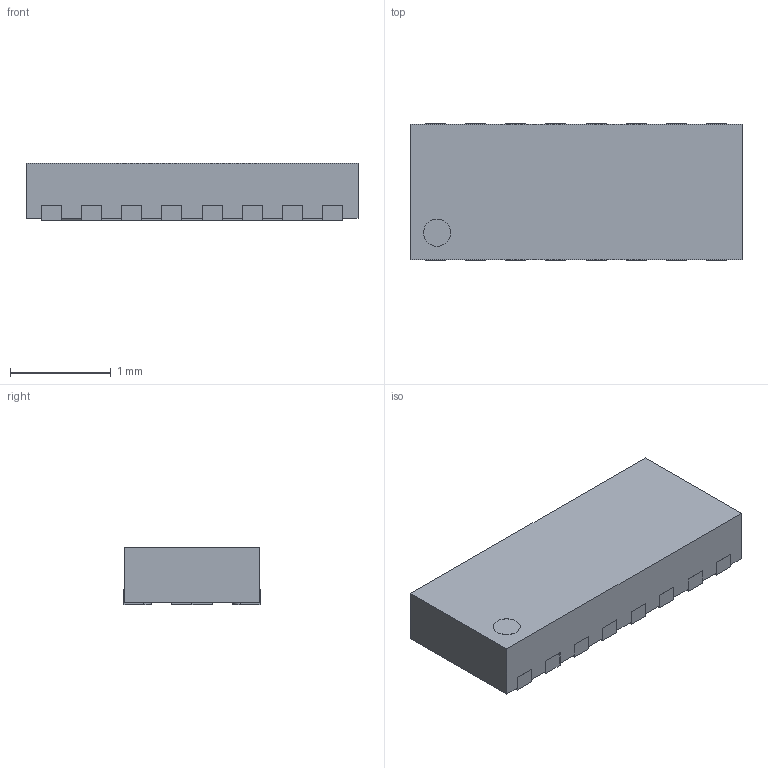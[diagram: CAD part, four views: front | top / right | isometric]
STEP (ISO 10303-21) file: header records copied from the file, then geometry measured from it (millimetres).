
FILE_DESCRIPTION(/* description */ (''),/* implementation_level */ '2;1');
FILE_NAME(/* name */ 'K:\ba\DCC\STP_Files\LLP3313-17L_3906_04_003\39060403.stp',/* time_stamp */ '2014-12-29T12:53:24+01:00',/* author */ ('brotzinger'),/* organization */ (''),/* preprocessor_version */ 'ST-DEVELOPER v15.2',/* originating_system */ 'Autodesk Inventor 2014',/* authorisation */ '');
FILE_SCHEMA (('AUTOMOTIVE_DESIGN { 1 0 10303 214 3 1 1 }'));
Length unit declared in the file: millimetre
Products named in the file (1): 39060403
Bounding box: 3.3 x 1.35 x 0.58 mm (x, y, z)
Volume: 2.5 mm3; surface area: 14.5 mm2
Topology: 1 solids, 1 shells, 142 faces, 414 edges, 276 vertices
Faces by surface type: plane 109, cylinder 33
Full cylindrical faces by diameter (mm): 0.27 x1
Entity records: 4826 total; most frequent: CARTESIAN_POINT 832, ORIENTED_EDGE 826, DIRECTION 765, EDGE_CURVE 413, LINE 347, VECTOR 347, VERTEX_POINT 276, AXIS2_PLACEMENT_3D 209
